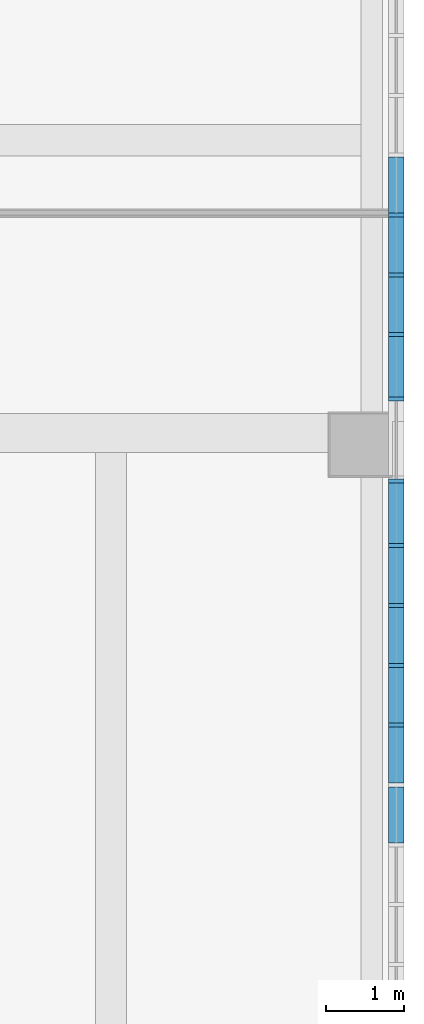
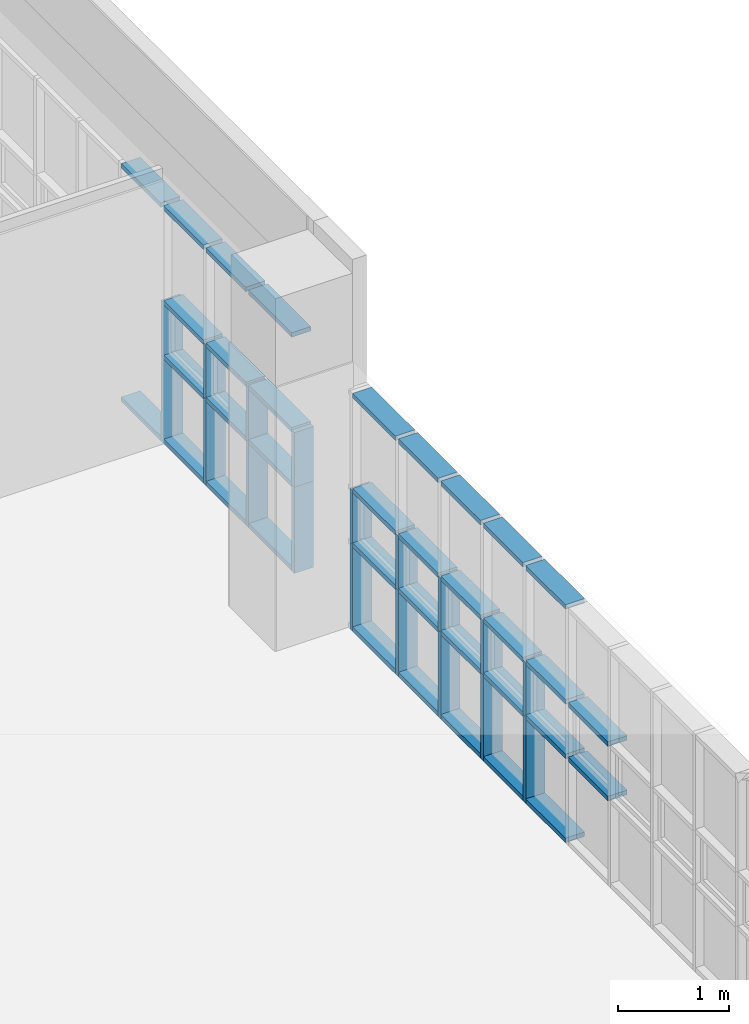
# One storey, part 23 of 76: 54 members, 1 element without a shape of its own.
"""IFC2X3 building model written with IfcOpenShell, lengths in millimetres."""

from ifc_helpers import new_model, entity, si_unit, converted_unit, derived_unit, direction, frame, origin, origin_2d_with_axis, place, context, subcontext, project, spatial, rectangle, extrude, source, transform, mapped, material, type_object, type_shapes, element, aggregate, save


model = new_model("IFC2X3")

# Units and contexts
model_context = context("Model", 3, precision=0.01, world=origin(), true_north=direction((6.123031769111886e-17, 1.0)))
body_context = subcontext(model_context, "Body", "Model", "MODEL_VIEW")
ifc_project = project(units=[si_unit("LENGTHUNIT", "METRE", prefix="MILLI"), si_unit("AREAUNIT", "SQUARE_METRE"), si_unit("VOLUMEUNIT", "CUBIC_METRE"), converted_unit("PLANEANGLEUNIT", "DEGREE", entity("IfcRatioMeasure", 0.017453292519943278), si_unit("PLANEANGLEUNIT", "RADIAN"), dimensions=[0, 0, 0, 0, 0, 0, 0]), si_unit("MASSUNIT", "GRAM", prefix="KILO"), derived_unit("MASSDENSITYUNIT", [(si_unit("MASSUNIT", "GRAM", prefix="KILO"), 1), (si_unit("LENGTHUNIT", "METRE"), -3)]), derived_unit("MOMENTOFINERTIAUNIT", [(si_unit("LENGTHUNIT", "METRE"), 4)]), si_unit("TIMEUNIT", "SECOND"), si_unit("FREQUENCYUNIT", "HERTZ"), si_unit("THERMODYNAMICTEMPERATUREUNIT", "DEGREE_CELSIUS"), derived_unit("THERMALTRANSMITTANCEUNIT", [(si_unit("MASSUNIT", "GRAM", prefix="KILO"), 1), (si_unit("THERMODYNAMICTEMPERATUREUNIT", "KELVIN"), -1), (si_unit("TIMEUNIT", "SECOND"), -3)]), derived_unit("VOLUMETRICFLOWRATEUNIT", [(si_unit("LENGTHUNIT", "METRE"), 3), (si_unit("TIMEUNIT", "SECOND"), -1)]), derived_unit("MASSFLOWRATEUNIT", [(si_unit("MASSUNIT", "GRAM", prefix="KILO"), 1), (si_unit("TIMEUNIT", "SECOND"), -1)]), derived_unit("ROTATIONALFREQUENCYUNIT", [(si_unit("TIMEUNIT", "SECOND"), -1)]), si_unit("ELECTRICCURRENTUNIT", "AMPERE"), si_unit("ELECTRICVOLTAGEUNIT", "VOLT"), si_unit("POWERUNIT", "WATT"), si_unit("FORCEUNIT", "NEWTON", prefix="KILO"), si_unit("ILLUMINANCEUNIT", "LUX"), si_unit("LUMINOUSFLUXUNIT", "LUMEN"), si_unit("LUMINOUSINTENSITYUNIT", "CANDELA"), derived_unit("USERDEFINED", [(si_unit("MASSUNIT", "GRAM", prefix="KILO"), -1), (si_unit("LENGTHUNIT", "METRE"), -2), (si_unit("TIMEUNIT", "SECOND"), 3), (si_unit("LUMINOUSFLUXUNIT", "LUMEN"), 1)]), derived_unit("SOUNDPOWERUNIT", [(si_unit("MASSUNIT", "GRAM", prefix="KILO"), 1), (si_unit("LENGTHUNIT", "METRE"), 2), (si_unit("TIMEUNIT", "SECOND"), -3)]), derived_unit("SOUNDPRESSUREUNIT", [(si_unit("MASSUNIT", "GRAM", prefix="KILO"), 1), (si_unit("LENGTHUNIT", "METRE"), -1), (si_unit("TIMEUNIT", "SECOND"), -2)]), derived_unit("LINEARVELOCITYUNIT", [(si_unit("LENGTHUNIT", "METRE"), 1), (si_unit("TIMEUNIT", "SECOND"), -1)]), si_unit("PRESSUREUNIT", "PASCAL"), derived_unit("USERDEFINED", [(si_unit("LENGTHUNIT", "METRE"), -2), (si_unit("MASSUNIT", "GRAM", prefix="KILO"), 1), (si_unit("TIMEUNIT", "SECOND"), -2)]), derived_unit("LINEARFORCEUNIT", [(si_unit("MASSUNIT", "GRAM", prefix="KILO"), 1), (si_unit("LENGTHUNIT", "METRE"), 1), (si_unit("TIMEUNIT", "SECOND"), -2), (si_unit("LENGTHUNIT", "METRE"), -1)]), derived_unit("PLANARFORCEUNIT", [(si_unit("MASSUNIT", "GRAM", prefix="KILO"), 1), (si_unit("LENGTHUNIT", "METRE"), 1), (si_unit("TIMEUNIT", "SECOND"), -2), (si_unit("LENGTHUNIT", "METRE"), -2)])], contexts=[model_context])

# Site, building, storey
site_placement = place(None, frame((-14167.972527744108, -657.2125860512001, 0.0)))
site = spatial("IfcSite", under=ifc_project, at=site_placement, Name="Default", CompositionType="ELEMENT")
building_placement = place(site_placement, origin())
building = spatial("IfcBuilding", under=site, at=building_placement, Name="Sample Building", CompositionType="ELEMENT")
storey_placement = place(building_placement, frame((0.0, 0.0, 9300.0)))
storey = spatial("IfcBuildingStorey", under=building, at=storey_placement, Name="지상 3층", CompositionType="ELEMENT", Elevation=9300.000000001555)

# Curtain wall, members
curtain_wall_type = type_object("IfcCurtainWallType", Name="커튼월:CW112-스테인리스 스틸 커튼월", PredefinedType="NOTDEFINED")
curtain_wall_placement = place(storey_placement, frame((0.0, 0.0, -9300.0)))
curtain_wall = element("IfcCurtainWall", 1, at=curtain_wall_placement, inside=storey, type_object=curtain_wall_type, Name="커튼월:CW112-스테인리스 스틸 커튼월", ObjectType="커튼월:CW112-스테인리스 스틸 커튼월")
ifc_material = material(Name="<Unnamed>")
member_type_1 = type_object("IfcMemberType", Name="직사각형 멀리언:CW200-직사각형 멀리언 50x200mm", PredefinedType="MULLION", material=ifc_material)
shared_shape_1 = source(origin(), body_context, "Body", "SweptSolid", [
    extrude(rectangle(XDim=200.0, YDim=50.0, at=origin_2d_with_axis()), frame((0.0, 0.0, -600.0), z_axis=(0.0, 0.0, 1.0), x_axis=(0.0, -1.0, 0.0)), (0.0, 0.0, 1.0), 600.0),
])
type_shapes(member_type_1, [shared_shape_1])
member_1_placement = place(curtain_wall_placement, frame((51517.96382893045, 10598.81770709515, 10330.0), z_axis=(0.0, 0.0, -1.0), x_axis=(0.0, -1.0, 0.0)))
member_1 = element("IfcMember", 2, at=member_1_placement, type_object=member_type_1, material=ifc_material, Name="직사각형 멀리언:CW200-직사각형 멀리언 50x200mm", ObjectType="직사각형 멀리언:CW200-직사각형 멀리언 50x200mm", context=body_context, shape_type="MappedRepresentation", body=[
    mapped(shared_shape_1, transform((0.0, 0.0, 0.0), scale=1.0)),
])
member_2_placement = place(curtain_wall_placement, frame((51517.96382893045, 11364.817707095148, 10330.0), z_axis=(0.0, 0.0, -1.0), x_axis=(0.0, -1.0, 0.0)))
member_2 = element("IfcMember", 3, at=member_2_placement, type_object=member_type_1, material=ifc_material, Name="직사각형 멀리언:CW200-직사각형 멀리언 50x200mm", ObjectType="직사각형 멀리언:CW200-직사각형 멀리언 50x200mm", context=body_context, shape_type="MappedRepresentation", body=[
    mapped(shared_shape_1, transform((0.0, 0.0, 0.0), scale=1.0)),
])
member_type_2 = type_object("IfcMemberType", Name="직사각형 멀리언:CW200-직사각형 멀리언 50x200mm", PredefinedType="MULLION", material=ifc_material)
shared_shape_2 = source(origin(), body_context, "Body", "SweptSolid", [
    extrude(rectangle(XDim=200.0, YDim=50.0, at=origin_2d_with_axis()), frame((0.0, 0.0, -950.0), z_axis=(0.0, 0.0, 1.0), x_axis=(0.0, -1.0, 0.0)), (0.0, 0.0, 1.0), 950.0000000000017),
])
type_shapes(member_type_2, [shared_shape_2])
member_3_placement = place(curtain_wall_placement, frame((51517.96382893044, 14832.81770709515, 9380.0), z_axis=(0.0, 0.0, -1.0), x_axis=(0.0, -1.0, 0.0)))
member_3 = element("IfcMember", 4, at=member_3_placement, type_object=member_type_2, material=ifc_material, Name="직사각형 멀리언:CW200-직사각형 멀리언 50x200mm", ObjectType="직사각형 멀리언:CW200-직사각형 멀리언 50x200mm", context=body_context, shape_type="MappedRepresentation", body=[
    mapped(shared_shape_2, transform((0.0, 0.0, 0.0), scale=1.0)),
])
member_4_placement = place(curtain_wall_placement, frame((51517.96382893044, 14066.81770709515, 9380.0), z_axis=(0.0, 0.0, -1.0), x_axis=(0.0, -1.0, 0.0)))
member_4 = element("IfcMember", 5, at=member_4_placement, type_object=member_type_2, material=ifc_material, Name="직사각형 멀리언:CW200-직사각형 멀리언 50x200mm", ObjectType="직사각형 멀리언:CW200-직사각형 멀리언 50x200mm", context=body_context, shape_type="MappedRepresentation", body=[
    mapped(shared_shape_2, transform((0.0, 0.0, 0.0), scale=1.0)),
])
member_5_placement = place(curtain_wall_placement, frame((51517.96382893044, 12190.81770709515, 9380.0), z_axis=(0.0, 0.0, -1.0), x_axis=(0.0, -1.0, 0.0)))
member_5 = element("IfcMember", 6, at=member_5_placement, type_object=member_type_2, material=ifc_material, Name="직사각형 멀리언:CW200-직사각형 멀리언 50x200mm", ObjectType="직사각형 멀리언:CW200-직사각형 멀리언 50x200mm", context=body_context, shape_type="MappedRepresentation", body=[
    mapped(shared_shape_2, transform((0.0, 0.0, 0.0), scale=1.0)),
])
member_6_placement = place(curtain_wall_placement, frame((51517.96382893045, 9832.81770709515, 9380.0), z_axis=(0.0, 0.0, -1.0), x_axis=(0.0, -1.0, 0.0)))
member_6 = element("IfcMember", 7, at=member_6_placement, type_object=member_type_2, material=ifc_material, Name="직사각형 멀리언:CW200-직사각형 멀리언 50x200mm", ObjectType="직사각형 멀리언:CW200-직사각형 멀리언 50x200mm", context=body_context, shape_type="MappedRepresentation", body=[
    mapped(shared_shape_2, transform((0.0, 0.0, 0.0), scale=1.0)),
])
member_7_placement = place(curtain_wall_placement, frame((51517.96382893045, 9066.817707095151, 9380.0), z_axis=(0.0, 0.0, -1.0), x_axis=(0.0, -1.0, 0.0)))
member_7 = element("IfcMember", 8, at=member_7_placement, type_object=member_type_2, material=ifc_material, Name="직사각형 멀리언:CW200-직사각형 멀리언 50x200mm", ObjectType="직사각형 멀리언:CW200-직사각형 멀리언 50x200mm", context=body_context, shape_type="MappedRepresentation", body=[
    mapped(shared_shape_2, transform((0.0, 0.0, 0.0), scale=1.0)),
])
member_8_placement = place(curtain_wall_placement, frame((51517.96382893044, 15598.817707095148, 9380.0), z_axis=(0.0, 0.0, -1.0), x_axis=(0.0, -1.0, 0.0)))
member_8 = element("IfcMember", 9, at=member_8_placement, type_object=member_type_2, material=ifc_material, Name="직사각형 멀리언:CW200-직사각형 멀리언 50x200mm", ObjectType="직사각형 멀리언:CW200-직사각형 멀리언 50x200mm", context=body_context, shape_type="MappedRepresentation", body=[
    mapped(shared_shape_2, transform((0.0, 0.0, 0.0), scale=1.0)),
])
member_9_placement = place(curtain_wall_placement, frame((51517.96382893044, 13240.817707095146, 9380.0), z_axis=(0.0, 0.0, -1.0), x_axis=(0.0, -1.0, 0.0)))
member_9 = element("IfcMember", 10, at=member_9_placement, type_object=member_type_2, material=ifc_material, Name="직사각형 멀리언:CW200-직사각형 멀리언 50x200mm", ObjectType="직사각형 멀리언:CW200-직사각형 멀리언 50x200mm", context=body_context, shape_type="MappedRepresentation", body=[
    mapped(shared_shape_2, transform((0.0, 0.0, 0.0), scale=1.0)),
])
member_type_3 = type_object("IfcMemberType", Name="직사각형 멀리언:CW200-직사각형 멀리언 50x200mm", PredefinedType="MULLION", material=ifc_material)
shared_shape_3 = source(origin(), body_context, "Body", "SweptSolid", [
    extrude(rectangle(XDim=200.0, YDim=50.0, at=origin_2d_with_axis()), frame((0.0, 0.0, -600.0), z_axis=(0.0, 0.0, 1.0), x_axis=(0.0, -1.0, 0.0)), (0.0, 0.0, 1.0), 599.9999999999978),
])
type_shapes(member_type_3, [shared_shape_3])
member_10_placement = place(curtain_wall_placement, frame((51517.96382893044, 14832.817707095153, 10330.0), z_axis=(0.0, 0.0, -1.0), x_axis=(0.0, -1.0, 0.0)))
member_10 = element("IfcMember", 11, at=member_10_placement, type_object=member_type_3, material=ifc_material, Name="직사각형 멀리언:CW200-직사각형 멀리언 50x200mm", ObjectType="직사각형 멀리언:CW200-직사각형 멀리언 50x200mm", context=body_context, shape_type="MappedRepresentation", body=[
    mapped(shared_shape_3, transform((0.0, 0.0, 0.0), scale=1.0)),
])
member_11_placement = place(curtain_wall_placement, frame((51517.96382893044, 14066.817707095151, 10330.0), z_axis=(0.0, 0.0, -1.0), x_axis=(0.0, -1.0, 0.0)))
member_11 = element("IfcMember", 12, at=member_11_placement, type_object=member_type_3, material=ifc_material, Name="직사각형 멀리언:CW200-직사각형 멀리언 50x200mm", ObjectType="직사각형 멀리언:CW200-직사각형 멀리언 50x200mm", context=body_context, shape_type="MappedRepresentation", body=[
    mapped(shared_shape_3, transform((0.0, 0.0, 0.0), scale=1.0)),
])
member_12_placement = place(curtain_wall_placement, frame((51517.96382893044, 12190.81770709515, 10330.0), z_axis=(0.0, 0.0, -1.0), x_axis=(0.0, -1.0, 0.0)))
member_12 = element("IfcMember", 13, at=member_12_placement, type_object=member_type_3, material=ifc_material, Name="직사각형 멀리언:CW200-직사각형 멀리언 50x200mm", ObjectType="직사각형 멀리언:CW200-직사각형 멀리언 50x200mm", context=body_context, shape_type="MappedRepresentation", body=[
    mapped(shared_shape_3, transform((0.0, 0.0, 0.0), scale=1.0)),
])
member_13_placement = place(curtain_wall_placement, frame((51517.96382893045, 9832.81770709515, 10330.0), z_axis=(0.0, 0.0, -1.0), x_axis=(0.0, -1.0, 0.0)))
member_13 = element("IfcMember", 14, at=member_13_placement, type_object=member_type_3, material=ifc_material, Name="직사각형 멀리언:CW200-직사각형 멀리언 50x200mm", ObjectType="직사각형 멀리언:CW200-직사각형 멀리언 50x200mm", context=body_context, shape_type="MappedRepresentation", body=[
    mapped(shared_shape_3, transform((0.0, 0.0, 0.0), scale=1.0)),
])
member_14_placement = place(curtain_wall_placement, frame((51517.96382893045, 9066.817707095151, 10330.0), z_axis=(0.0, 0.0, -1.0), x_axis=(0.0, -1.0, 0.0)))
member_14 = element("IfcMember", 15, at=member_14_placement, type_object=member_type_3, material=ifc_material, Name="직사각형 멀리언:CW200-직사각형 멀리언 50x200mm", ObjectType="직사각형 멀리언:CW200-직사각형 멀리언 50x200mm", context=body_context, shape_type="MappedRepresentation", body=[
    mapped(shared_shape_3, transform((0.0, 0.0, 0.0), scale=1.0)),
])
member_15_placement = place(curtain_wall_placement, frame((51517.96382893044, 15598.817707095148, 10330.0), z_axis=(0.0, 0.0, -1.0), x_axis=(0.0, -1.0, 0.0)))
member_15 = element("IfcMember", 16, at=member_15_placement, type_object=member_type_3, material=ifc_material, Name="직사각형 멀리언:CW200-직사각형 멀리언 50x200mm", ObjectType="직사각형 멀리언:CW200-직사각형 멀리언 50x200mm", context=body_context, shape_type="MappedRepresentation", body=[
    mapped(shared_shape_3, transform((0.0, 0.0, 0.0), scale=1.0)),
])
member_16_placement = place(curtain_wall_placement, frame((51517.96382893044, 13240.817707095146, 10330.0), z_axis=(0.0, 0.0, -1.0), x_axis=(0.0, -1.0, 0.0)))
member_16 = element("IfcMember", 17, at=member_16_placement, type_object=member_type_3, material=ifc_material, Name="직사각형 멀리언:CW200-직사각형 멀리언 50x200mm", ObjectType="직사각형 멀리언:CW200-직사각형 멀리언 50x200mm", context=body_context, shape_type="MappedRepresentation", body=[
    mapped(shared_shape_3, transform((0.0, 0.0, 0.0), scale=1.0)),
])
member_type_4 = type_object("IfcMemberType", Name="직사각형 멀리언:CW200-직사각형 멀리언 50x200mm", PredefinedType="MULLION", material=ifc_material)
shared_shape_4 = source(origin(), body_context, "Body", "SweptSolid", [
    extrude(rectangle(XDim=200.0, YDim=50.0, at=origin_2d_with_axis()), frame((-25.0, 0.0, -716.0), z_axis=(0.0, 0.0, 1.0), x_axis=(0.0, -1.0, 0.0)), (0.0, 0.0, 1.0), 715.9999999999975),
])
type_shapes(member_type_4, [shared_shape_4])
member_17_placement = place(curtain_wall_placement, frame((51517.96382893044, 14857.81770709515, 12000.0), z_axis=(0.0, -1.0, 0.0), x_axis=(0.0, 0.0, 1.0)))
member_17 = element("IfcMember", 18, at=member_17_placement, type_object=member_type_4, material=ifc_material, Name="직사각형 멀리언:CW200-직사각형 멀리언 50x200mm", ObjectType="직사각형 멀리언:CW200-직사각형 멀리언 50x200mm", context=body_context, shape_type="MappedRepresentation", body=[
    mapped(shared_shape_4, transform((0.0, 0.0, 0.0), scale=1.0)),
])
member_18_placement = place(curtain_wall_placement, frame((51517.96382893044, 14091.81770709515, 12000.0), z_axis=(0.0, -1.0, 0.0), x_axis=(0.0, 0.0, 1.0)))
member_18 = element("IfcMember", 19, at=member_18_placement, type_object=member_type_4, material=ifc_material, Name="직사각형 멀리언:CW200-직사각형 멀리언 50x200mm", ObjectType="직사각형 멀리언:CW200-직사각형 멀리언 50x200mm", context=body_context, shape_type="MappedRepresentation", body=[
    mapped(shared_shape_4, transform((0.0, 0.0, 0.0), scale=1.0)),
])
member_19_placement = place(curtain_wall_placement, frame((51517.96382893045, 9857.817707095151, 12000.0), z_axis=(0.0, -1.0, 0.0), x_axis=(0.0, 0.0, 1.0)))
member_19 = element("IfcMember", 20, at=member_19_placement, type_object=member_type_4, material=ifc_material, Name="직사각형 멀리언:CW200-직사각형 멀리언 50x200mm", ObjectType="직사각형 멀리언:CW200-직사각형 멀리언 50x200mm", context=body_context, shape_type="MappedRepresentation", body=[
    mapped(shared_shape_4, transform((0.0, 0.0, 0.0), scale=1.0)),
])
member_20_placement = place(curtain_wall_placement, frame((51517.96382893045, 9091.817707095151, 12000.0), z_axis=(0.0, -1.0, 0.0), x_axis=(0.0, 0.0, 1.0)))
member_20 = element("IfcMember", 21, at=member_20_placement, type_object=member_type_4, material=ifc_material, Name="직사각형 멀리언:CW200-직사각형 멀리언 50x200mm", ObjectType="직사각형 멀리언:CW200-직사각형 멀리언 50x200mm", context=body_context, shape_type="MappedRepresentation", body=[
    mapped(shared_shape_4, transform((0.0, 0.0, 0.0), scale=1.0)),
])
member_21_placement = place(curtain_wall_placement, frame((51517.96382893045, 8325.817707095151, 12000.0), z_axis=(0.0, -1.0, 0.0), x_axis=(0.0, 0.0, 1.0)))
member_21 = element("IfcMember", 22, at=member_21_placement, type_object=member_type_4, material=ifc_material, Name="직사각형 멀리언:CW200-직사각형 멀리언 50x200mm", ObjectType="직사각형 멀리언:CW200-직사각형 멀리언 50x200mm", context=body_context, shape_type="MappedRepresentation", body=[
    mapped(shared_shape_4, transform((0.0, 0.0, 0.0), scale=1.0)),
])
member_22_placement = place(curtain_wall_placement, frame((51517.96382893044, 15623.817707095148, 12000.0), z_axis=(0.0, -1.0, 0.0), x_axis=(0.0, 0.0, 1.0)))
member_22 = element("IfcMember", 23, at=member_22_placement, type_object=member_type_4, material=ifc_material, Name="직사각형 멀리언:CW200-직사각형 멀리언 50x200mm", ObjectType="직사각형 멀리언:CW200-직사각형 멀리언 50x200mm", context=body_context, shape_type="MappedRepresentation", body=[
    mapped(shared_shape_4, transform((0.0, 0.0, 0.0), scale=1.0)),
])
member_type_5 = type_object("IfcMemberType", Name="직사각형 멀리언:CW200-직사각형 멀리언 50x200mm", PredefinedType="MULLION", material=ifc_material)
shared_shape_5 = source(origin(), body_context, "Body", "SweptSolid", [
    extrude(rectangle(XDim=200.0, YDim=50.0, at=origin_2d_with_axis()), frame((-25.0, 0.0, -716.0), z_axis=(0.0, 0.0, 1.0), x_axis=(0.0, -1.0, 0.0)), (0.0, 0.0, 1.0), 716.0000000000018),
])
type_shapes(member_type_5, [shared_shape_5])
member_23_placement = place(curtain_wall_placement, frame((51517.96382893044, 14807.81770709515, 9380.0), z_axis=(0.0, 1.0, 0.0), x_axis=(0.0, 0.0, -1.0)))
member_23 = element("IfcMember", 24, at=member_23_placement, type_object=member_type_5, material=ifc_material, Name="직사각형 멀리언:CW200-직사각형 멀리언 50x200mm", ObjectType="직사각형 멀리언:CW200-직사각형 멀리언 50x200mm", context=body_context, shape_type="MappedRepresentation", body=[
    mapped(shared_shape_5, transform((0.0, 0.0, 0.0), scale=1.0)),
])
member_24_placement = place(curtain_wall_placement, frame((51517.96382893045, 9807.81770709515, 9380.0), z_axis=(0.0, 1.0, 0.0), x_axis=(0.0, 0.0, -1.0)))
member_24 = element("IfcMember", 25, at=member_24_placement, type_object=member_type_5, material=ifc_material, Name="직사각형 멀리언:CW200-직사각형 멀리언 50x200mm", ObjectType="직사각형 멀리언:CW200-직사각형 멀리언 50x200mm", context=body_context, shape_type="MappedRepresentation", body=[
    mapped(shared_shape_5, transform((0.0, 0.0, 0.0), scale=1.0)),
])
member_25_placement = place(curtain_wall_placement, frame((51517.96382893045, 9041.817707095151, 9380.0), z_axis=(0.0, 1.0, 0.0), x_axis=(0.0, 0.0, -1.0)))
member_25 = element("IfcMember", 26, at=member_25_placement, type_object=member_type_5, material=ifc_material, Name="직사각형 멀리언:CW200-직사각형 멀리언 50x200mm", ObjectType="직사각형 멀리언:CW200-직사각형 멀리언 50x200mm", context=body_context, shape_type="MappedRepresentation", body=[
    mapped(shared_shape_5, transform((0.0, 0.0, 0.0), scale=1.0)),
])
member_26_placement = place(curtain_wall_placement, frame((51517.96382893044, 15573.817707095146, 9380.0), z_axis=(0.0, 1.0, 0.0), x_axis=(0.0, 0.0, -1.0)))
member_26 = element("IfcMember", 27, at=member_26_placement, type_object=member_type_5, material=ifc_material, Name="직사각형 멀리언:CW200-직사각형 멀리언 50x200mm", ObjectType="직사각형 멀리언:CW200-직사각형 멀리언 50x200mm", context=body_context, shape_type="MappedRepresentation", body=[
    mapped(shared_shape_5, transform((0.0, 0.0, 0.0), scale=1.0)),
])
member_27_placement = place(curtain_wall_placement, frame((51517.96382893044, 16339.817707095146, 9380.0), z_axis=(0.0, 1.0, 0.0), x_axis=(0.0, 0.0, -1.0)))
member_27 = element("IfcMember", 28, at=member_27_placement, type_object=member_type_5, material=ifc_material, Name="직사각형 멀리언:CW200-직사각형 멀리언 50x200mm", ObjectType="직사각형 멀리언:CW200-직사각형 멀리언 50x200mm", context=body_context, shape_type="MappedRepresentation", body=[
    mapped(shared_shape_5, transform((0.0, 0.0, 0.0), scale=1.0)),
])
member_type_6 = type_object("IfcMemberType", Name="직사각형 멀리언:CW200-직사각형 멀리언 50x200mm", PredefinedType="MULLION", material=ifc_material)
shared_shape_6 = source(origin(), body_context, "Body", "SweptSolid", [
    extrude(rectangle(XDim=200.0, YDim=50.0, at=origin_2d_with_axis()), frame((0.0, 0.0, -716.0), z_axis=(0.0, 0.0, 1.0), x_axis=(0.0, -1.0, 0.0)), (0.0, 0.0, 1.0), 715.9999999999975),
])
type_shapes(member_type_6, [shared_shape_6])
member_28_placement = place(curtain_wall_placement, frame((51517.96382893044, 14091.817707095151, 10330.0), z_axis=(0.0, -1.0, 0.0), x_axis=(0.0, 0.0, 1.0)))
member_28 = element("IfcMember", 29, at=member_28_placement, type_object=member_type_6, material=ifc_material, Name="직사각형 멀리언:CW200-직사각형 멀리언 50x200mm", ObjectType="직사각형 멀리언:CW200-직사각형 멀리언 50x200mm", context=body_context, shape_type="MappedRepresentation", body=[
    mapped(shared_shape_6, transform((0.0, 0.0, 0.0), scale=1.0)),
])
member_29_placement = place(curtain_wall_placement, frame((51517.96382893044, 14091.81770709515, 10930.0), z_axis=(0.0, -1.0, 0.0), x_axis=(0.0, 0.0, 1.0)))
member_29 = element("IfcMember", 30, at=member_29_placement, type_object=member_type_6, material=ifc_material, Name="직사각형 멀리언:CW200-직사각형 멀리언 50x200mm", ObjectType="직사각형 멀리언:CW200-직사각형 멀리언 50x200mm", context=body_context, shape_type="MappedRepresentation", body=[
    mapped(shared_shape_6, transform((0.0, 0.0, 0.0), scale=1.0)),
])
member_30_placement = place(curtain_wall_placement, frame((51517.96382893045, 9091.817707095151, 10330.0), z_axis=(0.0, -1.0, 0.0), x_axis=(0.0, 0.0, 1.0)))
member_30 = element("IfcMember", 31, at=member_30_placement, type_object=member_type_6, material=ifc_material, Name="직사각형 멀리언:CW200-직사각형 멀리언 50x200mm", ObjectType="직사각형 멀리언:CW200-직사각형 멀리언 50x200mm", context=body_context, shape_type="MappedRepresentation", body=[
    mapped(shared_shape_6, transform((0.0, 0.0, 0.0), scale=1.0)),
])
member_31_placement = place(curtain_wall_placement, frame((51517.96382893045, 9091.817707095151, 10930.0), z_axis=(0.0, -1.0, 0.0), x_axis=(0.0, 0.0, 1.0)))
member_31 = element("IfcMember", 32, at=member_31_placement, type_object=member_type_6, material=ifc_material, Name="직사각형 멀리언:CW200-직사각형 멀리언 50x200mm", ObjectType="직사각형 멀리언:CW200-직사각형 멀리언 50x200mm", context=body_context, shape_type="MappedRepresentation", body=[
    mapped(shared_shape_6, transform((0.0, 0.0, 0.0), scale=1.0)),
])
member_32_placement = place(curtain_wall_placement, frame((51517.96382893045, 8325.817707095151, 10330.0), z_axis=(0.0, -1.0, 0.0), x_axis=(0.0, 0.0, 1.0)))
member_32 = element("IfcMember", 33, at=member_32_placement, type_object=member_type_6, material=ifc_material, Name="직사각형 멀리언:CW200-직사각형 멀리언 50x200mm", ObjectType="직사각형 멀리언:CW200-직사각형 멀리언 50x200mm", context=body_context, shape_type="MappedRepresentation", body=[
    mapped(shared_shape_6, transform((0.0, 0.0, 0.0), scale=1.0)),
])
member_33_placement = place(curtain_wall_placement, frame((51517.96382893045, 8325.817707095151, 10930.0), z_axis=(0.0, -1.0, 0.0), x_axis=(0.0, 0.0, 1.0)))
member_33 = element("IfcMember", 34, at=member_33_placement, type_object=member_type_6, material=ifc_material, Name="직사각형 멀리언:CW200-직사각형 멀리언 50x200mm", ObjectType="직사각형 멀리언:CW200-직사각형 멀리언 50x200mm", context=body_context, shape_type="MappedRepresentation", body=[
    mapped(shared_shape_6, transform((0.0, 0.0, 0.0), scale=1.0)),
])
member_34_placement = place(curtain_wall_placement, frame((51517.96382893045, 7559.817707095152, 10330.0), z_axis=(0.0, -1.0, 0.0), x_axis=(0.0, 0.0, 1.0)))
member_34 = element("IfcMember", 35, at=member_34_placement, type_object=member_type_6, material=ifc_material, Name="직사각형 멀리언:CW200-직사각형 멀리언 50x200mm", ObjectType="직사각형 멀리언:CW200-직사각형 멀리언 50x200mm", context=body_context, shape_type="MappedRepresentation", body=[
    mapped(shared_shape_6, transform((0.0, 0.0, 0.0), scale=1.0)),
])
member_35_placement = place(curtain_wall_placement, frame((51517.96382893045, 7559.817707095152, 10930.0), z_axis=(0.0, -1.0, 0.0), x_axis=(0.0, 0.0, 1.0)))
member_35 = element("IfcMember", 36, at=member_35_placement, type_object=member_type_6, material=ifc_material, Name="직사각형 멀리언:CW200-직사각형 멀리언 50x200mm", ObjectType="직사각형 멀리언:CW200-직사각형 멀리언 50x200mm", context=body_context, shape_type="MappedRepresentation", body=[
    mapped(shared_shape_6, transform((0.0, 0.0, 0.0), scale=1.0)),
])
member_36_placement = place(curtain_wall_placement, frame((51517.96382893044, 14857.817707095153, 10330.0), z_axis=(0.0, -1.0, 0.0), x_axis=(0.0, 0.0, 1.0)))
member_36 = element("IfcMember", 37, at=member_36_placement, type_object=member_type_6, material=ifc_material, Name="직사각형 멀리언:CW200-직사각형 멀리언 50x200mm", ObjectType="직사각형 멀리언:CW200-직사각형 멀리언 50x200mm", context=body_context, shape_type="MappedRepresentation", body=[
    mapped(shared_shape_6, transform((0.0, 0.0, 0.0), scale=1.0)),
])
member_37_placement = place(curtain_wall_placement, frame((51517.96382893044, 14857.817707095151, 10930.0), z_axis=(0.0, -1.0, 0.0), x_axis=(0.0, 0.0, 1.0)))
member_37 = element("IfcMember", 38, at=member_37_placement, type_object=member_type_6, material=ifc_material, Name="직사각형 멀리언:CW200-직사각형 멀리언 50x200mm", ObjectType="직사각형 멀리언:CW200-직사각형 멀리언 50x200mm", context=body_context, shape_type="MappedRepresentation", body=[
    mapped(shared_shape_6, transform((0.0, 0.0, 0.0), scale=1.0)),
])
member_type_7 = type_object("IfcMemberType", Name="직사각형 멀리언:CW200-직사각형 멀리언 50x200mm", PredefinedType="MULLION", material=ifc_material)
shared_shape_7 = source(origin(), body_context, "Body", "SweptSolid", [
    extrude(rectangle(XDim=200.0, YDim=50.0, at=origin_2d_with_axis()), frame((-25.0, 0.0, -776.0), z_axis=(0.0, 0.0, 1.0), x_axis=(0.0, -1.0, 0.0)), (0.0, 0.0, 1.0), 776.0000000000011),
])
type_shapes(member_type_7, [shared_shape_7])
member_38_placement = place(curtain_wall_placement, frame((51517.96382893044, 14041.817707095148, 9380.0), z_axis=(0.0, 1.0, 0.0), x_axis=(0.0, 0.0, -1.0)))
member_38 = element("IfcMember", 39, at=member_38_placement, type_object=member_type_7, material=ifc_material, Name="직사각형 멀리언:CW200-직사각형 멀리언 50x200mm", ObjectType="직사각형 멀리언:CW200-직사각형 멀리언 50x200mm", context=body_context, shape_type="MappedRepresentation", body=[
    mapped(shared_shape_7, transform((0.0, 0.0, 0.0), scale=1.0)),
])
member_39_placement = place(curtain_wall_placement, frame((51517.96382893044, 12165.817707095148, 9380.0), z_axis=(0.0, 1.0, 0.0), x_axis=(0.0, 0.0, -1.0)))
member_39 = element("IfcMember", 40, at=member_39_placement, type_object=member_type_7, material=ifc_material, Name="직사각형 멀리언:CW200-직사각형 멀리언 50x200mm", ObjectType="직사각형 멀리언:CW200-직사각형 멀리언 50x200mm", context=body_context, shape_type="MappedRepresentation", body=[
    mapped(shared_shape_7, transform((0.0, 0.0, 0.0), scale=1.0)),
])
member_type_8 = type_object("IfcMemberType", Name="직사각형 멀리언:CW200-직사각형 멀리언 50x200mm", PredefinedType="MULLION", material=ifc_material)
shared_shape_8 = source(origin(), body_context, "Body", "SweptSolid", [
    extrude(rectangle(XDim=200.0, YDim=50.0, at=origin_2d_with_axis()), frame((0.0, 0.0, -776.0), z_axis=(0.0, 0.0, 1.0), x_axis=(0.0, -1.0, 0.0)), (0.0, 0.0, 1.0), 775.999999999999),
])
type_shapes(member_type_8, [shared_shape_8])
member_40_placement = place(curtain_wall_placement, frame((51517.96382893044, 13265.817707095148, 10330.0), z_axis=(0.0, -1.0, 0.0), x_axis=(0.0, 0.0, 1.0)))
member_40 = element("IfcMember", 41, at=member_40_placement, type_object=member_type_8, material=ifc_material, Name="직사각형 멀리언:CW200-직사각형 멀리언 50x200mm", ObjectType="직사각형 멀리언:CW200-직사각형 멀리언 50x200mm", context=body_context, shape_type="MappedRepresentation", body=[
    mapped(shared_shape_8, transform((0.0, 0.0, 0.0), scale=1.0)),
])
member_41_placement = place(curtain_wall_placement, frame((51517.96382893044, 13265.817707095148, 10930.0), z_axis=(0.0, -1.0, 0.0), x_axis=(0.0, 0.0, 1.0)))
member_41 = element("IfcMember", 42, at=member_41_placement, type_object=member_type_8, material=ifc_material, Name="직사각형 멀리언:CW200-직사각형 멀리언 50x200mm", ObjectType="직사각형 멀리언:CW200-직사각형 멀리언 50x200mm", context=body_context, shape_type="MappedRepresentation", body=[
    mapped(shared_shape_8, transform((0.0, 0.0, 0.0), scale=1.0)),
])
member_42_placement = place(curtain_wall_placement, frame((51517.96382893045, 11389.81770709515, 10330.0), z_axis=(0.0, -1.0, 0.0), x_axis=(0.0, 0.0, 1.0)))
member_42 = element("IfcMember", 43, at=member_42_placement, type_object=member_type_8, material=ifc_material, Name="직사각형 멀리언:CW200-직사각형 멀리언 50x200mm", ObjectType="직사각형 멀리언:CW200-직사각형 멀리언 50x200mm", context=body_context, shape_type="MappedRepresentation", body=[
    mapped(shared_shape_8, transform((0.0, 0.0, 0.0), scale=1.0)),
])
member_43_placement = place(curtain_wall_placement, frame((51517.96382893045, 11389.81770709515, 10930.0), z_axis=(0.0, -1.0, 0.0), x_axis=(0.0, 0.0, 1.0)))
member_43 = element("IfcMember", 44, at=member_43_placement, type_object=member_type_8, material=ifc_material, Name="직사각형 멀리언:CW200-직사각형 멀리언 50x200mm", ObjectType="직사각형 멀리언:CW200-직사각형 멀리언 50x200mm", context=body_context, shape_type="MappedRepresentation", body=[
    mapped(shared_shape_8, transform((0.0, 0.0, 0.0), scale=1.0)),
])
member_type_9 = type_object("IfcMemberType", Name="직사각형 멀리언:CW200-직사각형 멀리언 50x200mm", PredefinedType="MULLION", material=ifc_material)
shared_shape_9 = source(origin(), body_context, "Body", "SweptSolid", [
    extrude(rectangle(XDim=200.0, YDim=50.0, at=origin_2d_with_axis()), frame((-25.0, 0.0, -776.0), z_axis=(0.0, 0.0, 1.0), x_axis=(0.0, -1.0, 0.0)), (0.0, 0.0, 1.0), 775.999999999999),
])
type_shapes(member_type_9, [shared_shape_9])
member_44_placement = place(curtain_wall_placement, frame((51517.96382893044, 13265.81770709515, 12000.0), z_axis=(0.0, -1.0, 0.0), x_axis=(0.0, 0.0, 1.0)))
member_44 = element("IfcMember", 45, at=member_44_placement, type_object=member_type_9, material=ifc_material, Name="직사각형 멀리언:CW200-직사각형 멀리언 50x200mm", ObjectType="직사각형 멀리언:CW200-직사각형 멀리언 50x200mm", context=body_context, shape_type="MappedRepresentation", body=[
    mapped(shared_shape_9, transform((0.0, 0.0, 0.0), scale=1.0)),
])
member_type_10 = type_object("IfcMemberType", Name="직사각형 멀리언:CW200-직사각형 멀리언 50x200mm", PredefinedType="MULLION", material=ifc_material)
shared_shape_10 = source(origin(), body_context, "Body", "SweptSolid", [
    extrude(rectangle(XDim=200.0, YDim=50.0, at=origin_2d_with_axis()), frame((-25.0, 0.0, -716.0), z_axis=(0.0, 0.0, 1.0), x_axis=(0.0, -1.0, 0.0)), (0.0, 0.0, 1.0), 715.9999999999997),
])
type_shapes(member_type_10, [shared_shape_10])
member_45_placement = place(curtain_wall_placement, frame((51517.96382893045, 10573.817707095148, 9380.0), z_axis=(0.0, 1.0, 0.0), x_axis=(0.0, 0.0, -1.0)))
member_45 = element("IfcMember", 46, at=member_45_placement, type_object=member_type_10, material=ifc_material, Name="직사각형 멀리언:CW200-직사각형 멀리언 50x200mm", ObjectType="직사각형 멀리언:CW200-직사각형 멀리언 50x200mm", context=body_context, shape_type="MappedRepresentation", body=[
    mapped(shared_shape_10, transform((0.0, 0.0, 0.0), scale=1.0)),
])
member_46_placement = place(curtain_wall_placement, frame((51517.96382893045, 11339.817707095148, 9380.0), z_axis=(0.0, 1.0, 0.0), x_axis=(0.0, 0.0, -1.0)))
member_46 = element("IfcMember", 47, at=member_46_placement, type_object=member_type_10, material=ifc_material, Name="직사각형 멀리언:CW200-직사각형 멀리언 50x200mm", ObjectType="직사각형 멀리언:CW200-직사각형 멀리언 50x200mm", context=body_context, shape_type="MappedRepresentation", body=[
    mapped(shared_shape_10, transform((0.0, 0.0, 0.0), scale=1.0)),
])
member_type_11 = type_object("IfcMemberType", Name="직사각형 멀리언:CW200-직사각형 멀리언 50x200mm", PredefinedType="MULLION", material=ifc_material)
shared_shape_11 = source(origin(), body_context, "Body", "SweptSolid", [
    extrude(rectangle(XDim=200.0, YDim=50.0, at=origin_2d_with_axis()), frame((0.0, 0.0, -716.0), z_axis=(0.0, 0.0, 1.0), x_axis=(0.0, -1.0, 0.0)), (0.0, 0.0, 1.0), 715.9999999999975),
])
type_shapes(member_type_11, [shared_shape_11])
member_47_placement = place(curtain_wall_placement, frame((51517.96382893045, 9857.817707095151, 10330.0), z_axis=(0.0, -1.0, 0.0), x_axis=(0.0, 0.0, 1.0)))
member_47 = element("IfcMember", 48, at=member_47_placement, type_object=member_type_11, material=ifc_material, Name="직사각형 멀리언:CW200-직사각형 멀리언 50x200mm", ObjectType="직사각형 멀리언:CW200-직사각형 멀리언 50x200mm", context=body_context, shape_type="MappedRepresentation", body=[
    mapped(shared_shape_11, transform((0.0, 0.0, 0.0), scale=1.0)),
])
member_48_placement = place(curtain_wall_placement, frame((51517.96382893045, 9857.817707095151, 10930.0), z_axis=(0.0, -1.0, 0.0), x_axis=(0.0, 0.0, 1.0)))
member_48 = element("IfcMember", 49, at=member_48_placement, type_object=member_type_11, material=ifc_material, Name="직사각형 멀리언:CW200-직사각형 멀리언 50x200mm", ObjectType="직사각형 멀리언:CW200-직사각형 멀리언 50x200mm", context=body_context, shape_type="MappedRepresentation", body=[
    mapped(shared_shape_11, transform((0.0, 0.0, 0.0), scale=1.0)),
])
member_49_placement = place(curtain_wall_placement, frame((51517.96382893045, 10623.81770709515, 10330.0), z_axis=(0.0, -1.0, 0.0), x_axis=(0.0, 0.0, 1.0)))
member_49 = element("IfcMember", 50, at=member_49_placement, type_object=member_type_11, material=ifc_material, Name="직사각형 멀리언:CW200-직사각형 멀리언 50x200mm", ObjectType="직사각형 멀리언:CW200-직사각형 멀리언 50x200mm", context=body_context, shape_type="MappedRepresentation", body=[
    mapped(shared_shape_11, transform((0.0, 0.0, 0.0), scale=1.0)),
])
member_50_placement = place(curtain_wall_placement, frame((51517.96382893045, 10623.81770709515, 10930.0), z_axis=(0.0, -1.0, 0.0), x_axis=(0.0, 0.0, 1.0)))
member_50 = element("IfcMember", 51, at=member_50_placement, type_object=member_type_11, material=ifc_material, Name="직사각형 멀리언:CW200-직사각형 멀리언 50x200mm", ObjectType="직사각형 멀리언:CW200-직사각형 멀리언 50x200mm", context=body_context, shape_type="MappedRepresentation", body=[
    mapped(shared_shape_11, transform((0.0, 0.0, 0.0), scale=1.0)),
])
member_type_12 = type_object("IfcMemberType", Name="직사각형 멀리언:CW200-직사각형 멀리언 50x200mm", PredefinedType="MULLION", material=ifc_material)
shared_shape_12 = source(origin(), body_context, "Body", "SweptSolid", [
    extrude(rectangle(XDim=200.0, YDim=50.0, at=origin_2d_with_axis()), frame((-25.0, 0.0, -716.0), z_axis=(0.0, 0.0, 1.0), x_axis=(0.0, -1.0, 0.0)), (0.0, 0.0, 1.0), 715.9999999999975),
])
type_shapes(member_type_12, [shared_shape_12])
member_51_placement = place(curtain_wall_placement, frame((51517.96382893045, 10623.81770709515, 12000.0), z_axis=(0.0, -1.0, 0.0), x_axis=(0.0, 0.0, 1.0)))
member_51 = element("IfcMember", 52, at=member_51_placement, type_object=member_type_12, material=ifc_material, Name="직사각형 멀리언:CW200-직사각형 멀리언 50x200mm", ObjectType="직사각형 멀리언:CW200-직사각형 멀리언 50x200mm", context=body_context, shape_type="MappedRepresentation", body=[
    mapped(shared_shape_12, transform((0.0, 0.0, 0.0), scale=1.0)),
])
member_type_13 = type_object("IfcMemberType", Name="직사각형 멀리언:CW200-직사각형 멀리언 50x200mm", PredefinedType="MULLION", material=ifc_material)
shared_shape_13 = source(origin(), body_context, "Body", "SweptSolid", [
    extrude(rectangle(XDim=200.0, YDim=50.0, at=origin_2d_with_axis()), frame((0.0, 0.0, -950.0), z_axis=(0.0, 0.0, 1.0), x_axis=(0.0, -1.0, 0.0)), (0.0, 0.0, 1.0), 950.0000000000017),
])
type_shapes(member_type_13, [shared_shape_13])
member_52_placement = place(curtain_wall_placement, frame((51517.96382893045, 10598.81770709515, 9380.0), z_axis=(0.0, 0.0, -1.0), x_axis=(0.0, -1.0, 0.0)))
member_52 = element("IfcMember", 53, at=member_52_placement, type_object=member_type_13, material=ifc_material, Name="직사각형 멀리언:CW200-직사각형 멀리언 50x200mm", ObjectType="직사각형 멀리언:CW200-직사각형 멀리언 50x200mm", context=body_context, shape_type="MappedRepresentation", body=[
    mapped(shared_shape_13, transform((0.0, 0.0, 0.0), scale=1.0)),
])
member_53_placement = place(curtain_wall_placement, frame((51517.96382893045, 11364.817707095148, 9380.0), z_axis=(0.0, 0.0, -1.0), x_axis=(0.0, -1.0, 0.0)))
member_53 = element("IfcMember", 54, at=member_53_placement, type_object=member_type_13, material=ifc_material, Name="직사각형 멀리언:CW200-직사각형 멀리언 50x200mm", ObjectType="직사각형 멀리언:CW200-직사각형 멀리언 50x200mm", context=body_context, shape_type="MappedRepresentation", body=[
    mapped(shared_shape_13, transform((0.0, 0.0, 0.0), scale=1.0)),
])
member_type_14 = type_object("IfcMemberType", Name="직사각형 멀리언:CW200-직사각형 멀리언 50x200mm", PredefinedType="MULLION", material=ifc_material)
shared_shape_14 = source(origin(), body_context, "Body", "SweptSolid", [
    extrude(rectangle(XDim=200.0, YDim=50.0, at=origin_2d_with_axis()), frame((-25.0, 0.0, -776.0), z_axis=(0.0, 0.0, 1.0), x_axis=(0.0, -1.0, 0.0)), (0.0, 0.0, 1.0), 775.999999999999),
])
type_shapes(member_type_14, [shared_shape_14])
member_54_placement = place(curtain_wall_placement, frame((51517.96382893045, 11389.81770709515, 12000.0), z_axis=(0.0, -1.0, 0.0), x_axis=(0.0, 0.0, 1.0)))
member_54 = element("IfcMember", 55, at=member_54_placement, type_object=member_type_14, material=ifc_material, Name="직사각형 멀리언:CW200-직사각형 멀리언 50x200mm", ObjectType="직사각형 멀리언:CW200-직사각형 멀리언 50x200mm", context=body_context, shape_type="MappedRepresentation", body=[
    mapped(shared_shape_14, transform((0.0, 0.0, 0.0), scale=1.0)),
])
aggregate(curtain_wall, [member_17, member_23, member_28, member_29, member_3, member_10, member_18, member_38, member_40, member_41, member_4, member_11, member_39, member_42, member_43, member_19, member_24, member_30, member_31, member_5, member_12, member_20, member_25, member_32, member_33, member_6, member_13, member_34, member_35, member_21, member_7, member_14, member_26, member_36, member_37, member_22, member_8, member_15, member_27, member_44, member_9, member_16, member_45, member_47, member_48, member_51, member_52, member_1, member_46, member_49, member_50, member_54, member_53, member_2])

save(model, "model.ifc")
